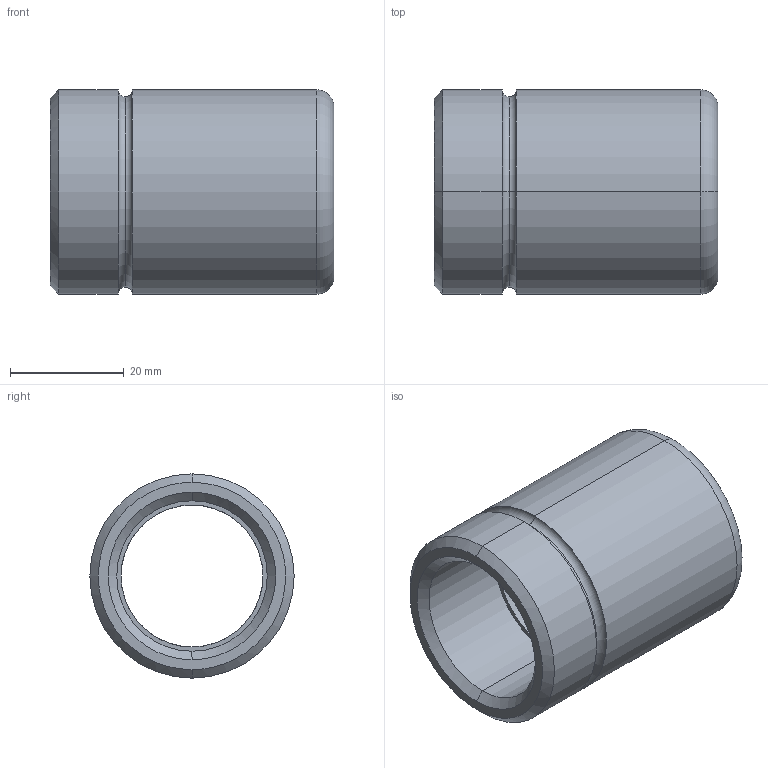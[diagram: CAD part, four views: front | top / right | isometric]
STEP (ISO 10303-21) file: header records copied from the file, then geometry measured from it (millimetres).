
FILE_DESCRIPTION(('CATIA V5 STEP Exchange'),'2;1');
FILE_NAME('C:\Users\Utente\Desktop\IO LAVORO\3D X SITO CF\X SITO\3D files 347\347-25 x 50.stp','2021-01-01T10:01:17+00:00',('none'),('none'),'CATIA Version 5 Release 20 GA (IN-10)','CATIA V5 STEP AP203','none');
FILE_SCHEMA(('CONFIG_CONTROL_DESIGN'));
Length unit declared in the file: millimetre
Products named in the file (1): 347-25 x 50
Bounding box: 50 x 36 x 36 mm (x, y, z)
Volume: 24248.5 mm3; surface area: 10669.8 mm2
Topology: 1 solids, 1 shells, 29 faces, 86 edges, 60 vertices
Faces by surface type: torus 12, cylinder 10, cone 4, plane 3
Entity records: 1154 total; most frequent: CARTESIAN_POINT 344, ORIENTED_EDGE 172, DIRECTION 132, AXIS2_PLACEMENT_3D 90, EDGE_CURVE 86, CIRCLE 60, VERTEX_POINT 60, EDGE_LOOP 32
